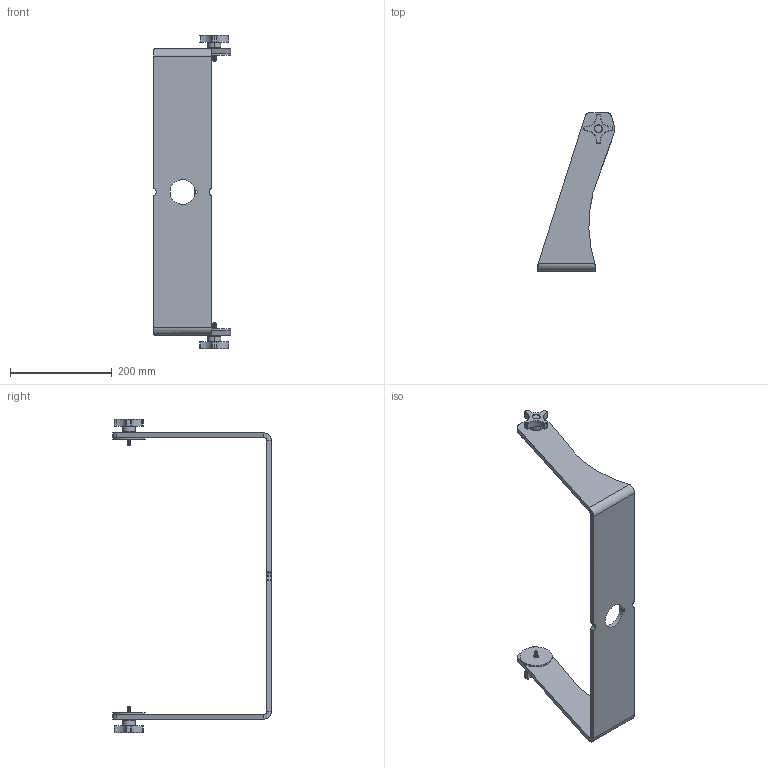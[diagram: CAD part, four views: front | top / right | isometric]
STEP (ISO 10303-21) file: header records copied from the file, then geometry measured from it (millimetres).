
FILE_DESCRIPTION (( 'STEP AP214' ), '1' );
FILE_NAME ('Yoke for 19.5 inch Universal Mount Monitor, YK19.5-2.STEP', '2022-06-22T18:04:34', ( '' ), ( '' ), 'SwSTEP 2.0', 'SolidWorks 2020', '' );
FILE_SCHEMA (( 'AUTOMOTIVE_DESIGN' ));
Length unit declared in the file: inch
Products named in the file (5): Yoke for 19.5 inch Universal Mount Monitor, YK19.5-2; All Yoke Configurations, YKxx_YK19.5-2; Knob, 30053; Bushing, 30500; Rubber Washer, 10177
Assembly tree (7 placements, depth 2):
  Yoke for 19.5 inch Universal Mount Monitor, YK19.5-2
    All Yoke Configurations, YKxx_YK19.5-2
    Bushing, 30500  x2
    Rubber Washer, 10177  x2
    Knob, 30053  x2
Bounding box: 151.52 x 311.15 x 615.98 mm (x, y, z)
Volume: 1065618.7 mm3; surface area: 263985.5 mm2
Topology: 7 solids, 7 shells, 567 faces, 1225 edges, 664 vertices
Faces by surface type: cylinder 257, cone 176, torus 48, plane 42, sphere 40, bspline 4
Entity records: 11012 total; most frequent: CARTESIAN_POINT 4126, DIRECTION 1480, ORIENTED_EDGE 1334, EDGE_CURVE 667, AXIS2_PLACEMENT_3D 601, VERTEX_POINT 369, EDGE_LOOP 324, ADVANCED_FACE 310
